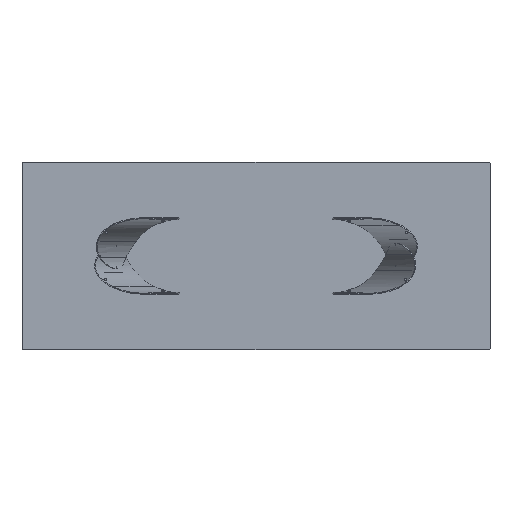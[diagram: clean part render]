
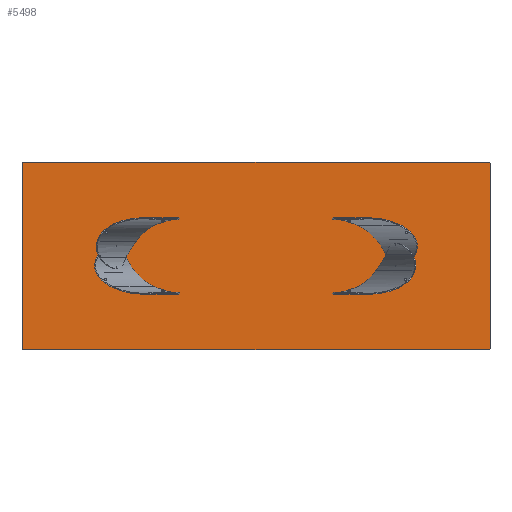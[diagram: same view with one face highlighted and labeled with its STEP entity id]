
A CAD part, front view. The second image highlights one B-rep face of the part: STEP entity #5498.
In plain terms, the highlighted planar face has unit normal (0, -1, 0).
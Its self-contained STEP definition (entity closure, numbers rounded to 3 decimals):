
#83 = AXIS2_PLACEMENT_3D ( 'NONE', #11042, #5490, #761 ) ;
#470 = DIRECTION ( 'NONE',  ( 0., 0., 1. ) ) ;
#598 = VERTEX_POINT ( 'NONE', #7844 ) ;
#655 = CARTESIAN_POINT ( 'NONE',  ( -1500., 0., 595. ) ) ;
#698 = CARTESIAN_POINT ( 'NONE',  ( -1500., 0., -600. ) ) ;
#702 = AXIS2_PLACEMENT_3D ( 'NONE', #10516, #3140, #1965 ) ;
#752 = VERTEX_POINT ( 'NONE', #655 ) ;
#761 = DIRECTION ( 'NONE',  ( 0., 0., 1. ) ) ;
#1109 = ORIENTED_EDGE ( 'NONE', *, *, #9526, .F. ) ;
#1246 = VERTEX_POINT ( 'NONE', #2132 ) ;
#1462 = CARTESIAN_POINT ( 'NONE',  ( 1495., 0., 600. ) ) ;
#1566 = PLANE ( 'NONE',  #83 ) ;
#1630 = LINE ( 'NONE', #4504, #8074 ) ;
#1654 = VECTOR ( 'NONE', #1980, 1000. ) ;
#1828 = DIRECTION ( 'NONE',  ( 0., -1., 0. ) ) ;
#1965 = DIRECTION ( 'NONE',  ( 0., 0., 1. ) ) ;
#1980 = DIRECTION ( 'NONE',  ( -1., 0., 0. ) ) ;
#2132 = CARTESIAN_POINT ( 'NONE',  ( -1495., 0., 600. ) ) ;
#2503 = AXIS2_PLACEMENT_3D ( 'NONE', #8528, #1828, #7705 ) ;
#2687 = CIRCLE ( 'NONE', #10864, 5. ) ;
#3044 = LINE ( 'NONE', #10918, #7289 ) ;
#3062 = VECTOR ( 'NONE', #5444, 1000. ) ;
#3140 = DIRECTION ( 'NONE',  ( 0., -1., 0. ) ) ;
#3284 = CIRCLE ( 'NONE', #10467, 5. ) ;
#3521 = ORIENTED_EDGE ( 'NONE', *, *, #5241, .F. ) ;
#3559 = DIRECTION ( 'NONE',  ( 0., 0., -1. ) ) ;
#3611 = ORIENTED_EDGE ( 'NONE', *, *, #7931, .T. ) ;
#4340 = ORIENTED_EDGE ( 'NONE', *, *, #10410, .T. ) ;
#4504 = CARTESIAN_POINT ( 'NONE',  ( 1500., 0., -600. ) ) ;
#4828 = VERTEX_POINT ( 'NONE', #1462 ) ;
#4840 = CARTESIAN_POINT ( 'NONE',  ( 1500., 0., -595. ) ) ;
#5072 = DIRECTION ( 'NONE',  ( 0., -1., 0. ) ) ;
#5241 = EDGE_CURVE ( 'NONE', #598, #6702, #10119, .T. ) ;
#5444 = DIRECTION ( 'NONE',  ( 1., 0., 0. ) ) ;
#5490 = DIRECTION ( 'NONE',  ( 0., 1., 0. ) ) ;
#5498 = ADVANCED_FACE ( 'NONE', ( #10472 ), #1566, .F. ) ;
#5605 = ORIENTED_EDGE ( 'NONE', *, *, #8340, .T. ) ;
#6127 = CARTESIAN_POINT ( 'NONE',  ( -1495., 0., -600. ) ) ;
#6160 = EDGE_CURVE ( 'NONE', #1246, #4828, #9510, .T. ) ;
#6702 = VERTEX_POINT ( 'NONE', #6127 ) ;
#6987 = EDGE_CURVE ( 'NONE', #9378, #8902, #1630, .T. ) ;
#7182 = CARTESIAN_POINT ( 'NONE',  ( -1495., 0., -595. ) ) ;
#7289 = VECTOR ( 'NONE', #7942, 1000. ) ;
#7677 = EDGE_LOOP ( 'NONE', ( #11108, #8966, #10919, #4340, #1109, #5605, #3521, #3611 ) ) ;
#7690 = EDGE_CURVE ( 'NONE', #9378, #4828, #8096, .T. ) ;
#7705 = DIRECTION ( 'NONE',  ( 0., 0., 1. ) ) ;
#7844 = CARTESIAN_POINT ( 'NONE',  ( 1495., 0., -600. ) ) ;
#7931 = EDGE_CURVE ( 'NONE', #598, #8902, #3284, .T. ) ;
#7942 = DIRECTION ( 'NONE',  ( 0., 0., 1. ) ) ;
#8074 = VECTOR ( 'NONE', #3559, 1000. ) ;
#8096 = CIRCLE ( 'NONE', #702, 5. ) ;
#8246 = CARTESIAN_POINT ( 'NONE',  ( -1500., 0., -595. ) ) ;
#8282 = CARTESIAN_POINT ( 'NONE',  ( -1500., 0., 600. ) ) ;
#8340 = EDGE_CURVE ( 'NONE', #9669, #6702, #2687, .T. ) ;
#8528 = CARTESIAN_POINT ( 'NONE',  ( -1495., 0., 595. ) ) ;
#8902 = VERTEX_POINT ( 'NONE', #4840 ) ;
#8966 = ORIENTED_EDGE ( 'NONE', *, *, #7690, .T. ) ;
#9378 = VERTEX_POINT ( 'NONE', #10486 ) ;
#9510 = LINE ( 'NONE', #8282, #3062 ) ;
#9526 = EDGE_CURVE ( 'NONE', #9669, #752, #3044, .T. ) ;
#9669 = VERTEX_POINT ( 'NONE', #8246 ) ;
#9682 = CIRCLE ( 'NONE', #2503, 5. ) ;
#10119 = LINE ( 'NONE', #698, #1654 ) ;
#10410 = EDGE_CURVE ( 'NONE', #1246, #752, #9682, .T. ) ;
#10467 = AXIS2_PLACEMENT_3D ( 'NONE', #11750, #5072, #470 ) ;
#10472 = FACE_OUTER_BOUND ( 'NONE', #7677, .T. ) ;
#10486 = CARTESIAN_POINT ( 'NONE',  ( 1500., 0., 595. ) ) ;
#10516 = CARTESIAN_POINT ( 'NONE',  ( 1495., 0., 595. ) ) ;
#10864 = AXIS2_PLACEMENT_3D ( 'NONE', #7182, #12163, #10983 ) ;
#10918 = CARTESIAN_POINT ( 'NONE',  ( -1500., 0., -600. ) ) ;
#10919 = ORIENTED_EDGE ( 'NONE', *, *, #6160, .F. ) ;
#10983 = DIRECTION ( 'NONE',  ( 0., 0., 1. ) ) ;
#11042 = CARTESIAN_POINT ( 'NONE',  ( 0., 0., 0. ) ) ;
#11108 = ORIENTED_EDGE ( 'NONE', *, *, #6987, .F. ) ;
#11750 = CARTESIAN_POINT ( 'NONE',  ( 1495., 0., -595. ) ) ;
#12163 = DIRECTION ( 'NONE',  ( 0., -1., 0. ) ) ;
